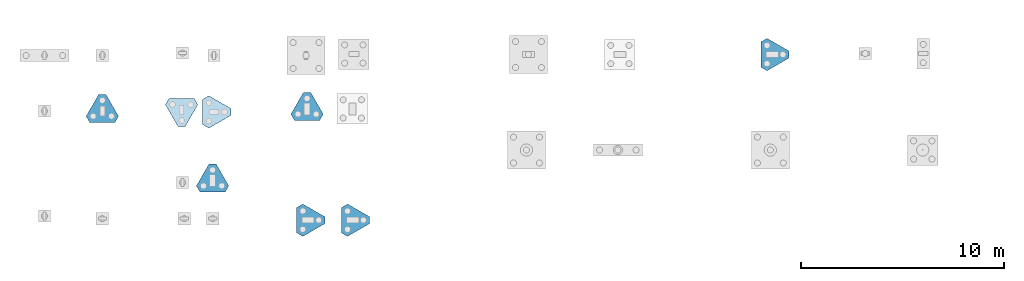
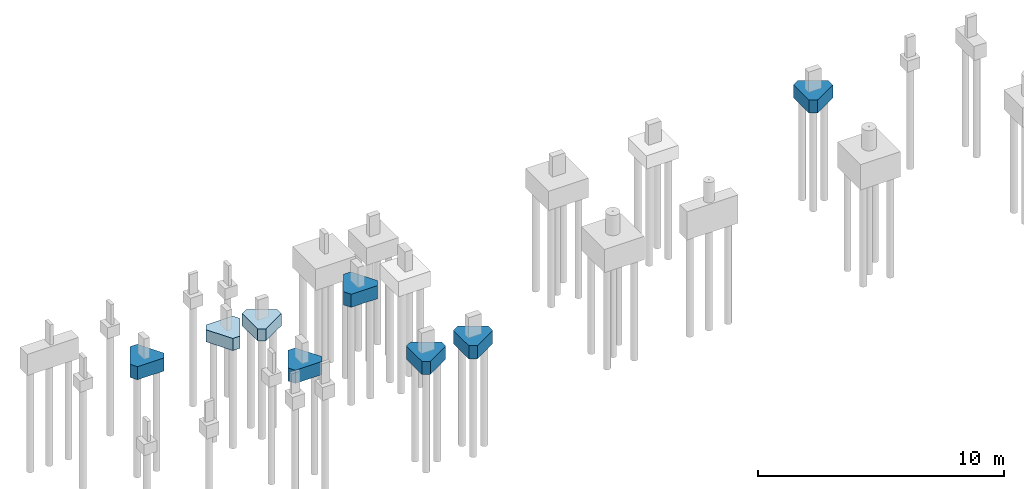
# One storey, part 3 of 3: 8 footings.
"""IFC2X3 building model written with IfcOpenShell, lengths in centimetres."""

from ifc_helpers import new_model, si_unit, derived_unit, frame, origin, origin_with_axes, place, context, project, spatial, faceted_brep, material, element, save


model = new_model("IFC2X3")

# Units and contexts
model_context = context("Model", 3, precision=1e-05, world=origin_with_axes(), identifier="Body")
ifc_project = project(units=[si_unit("LENGTHUNIT", "METRE", prefix="CENTI"), si_unit("VOLUMEUNIT", "CUBIC_METRE"), si_unit("AREAUNIT", "SQUARE_METRE"), si_unit("POWERUNIT", "WATT"), si_unit("LUMINOUSFLUXUNIT", "LUMEN"), si_unit("ELECTRICCURRENTUNIT", "AMPERE"), si_unit("PRESSUREUNIT", "PASCAL", prefix="KILO"), si_unit("MASSUNIT", "GRAM", prefix="KILO"), si_unit("PLANEANGLEUNIT", "RADIAN"), derived_unit("VOLUMETRICFLOWRATEUNIT", [(si_unit("LENGTHUNIT", "METRE"), 3), (si_unit("TIMEUNIT", "SECOND"), -1)])], contexts=[model_context])

# Site, building, storey
site_placement = place(None, origin_with_axes())
site = spatial("IfcSite", under=ifc_project, at=site_placement)
building_placement = place(site_placement, origin())
building = spatial("IfcBuilding", under=site, at=building_placement)
storey_placement = place(building_placement, origin_with_axes())
storey = spatial("IfcBuildingStorey", under=building, at=storey_placement, Name="01. Estacionamento", CompositionType="ELEMENT", Elevation=0.0)

# Footings
ifc_material = material(Name="Concreto")
footing_1_placement = place(storey_placement, frame((1861.5303810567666, -289.11, -100.0), z_axis=(0.0, 0.0, 1.0), x_axis=(1.0, 0.0, 0.0)))
element("IfcFooting", 1, at=footing_1_placement, inside=storey, material=ifc_material, Name="P10", context=model_context, shape_type="SolidModel", body=[
    faceted_brep([(68.97114317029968, -17.320508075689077, -65.0), (-38.97114317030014, -79.64101615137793, -65.0), (-68.97114317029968, -62.320508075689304, -65.0), (-68.97114317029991, 62.320508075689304, -65.0), (-38.97114317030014, 79.64101615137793, -65.0), (68.97114317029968, 17.32050807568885, -65.0), (68.97114317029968, 17.32050807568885, 0.0), (-38.97114317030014, 79.64101615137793, 0.0), (-68.97114317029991, 62.320508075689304, 0.0), (-68.97114317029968, -62.320508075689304, 0.0), (-38.97114317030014, -79.64101615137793, 0.0), (68.97114317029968, -17.320508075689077, 0.0)], [[[0, 1, 2, 3, 4, 5]], [[6, 7, 8, 9, 10, 11]], [[6, 5, 7]], [[5, 4, 7]], [[7, 4, 8]], [[4, 3, 8]], [[8, 3, 9]], [[3, 2, 9]], [[9, 2, 10]], [[2, 1, 10]], [[10, 1, 11]], [[1, 0, 11]], [[11, 0, 6]], [[0, 5, 6]]]),
])
footing_2_placement = place(storey_placement, frame((-1447.96, -553.6196189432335, -100.0), z_axis=(0.0, 0.0, 1.0), x_axis=(1.0, 0.0, 0.0)))
element("IfcFooting", 2, at=footing_2_placement, inside=storey, material=ifc_material, Name="P17", context=model_context, shape_type="SolidModel", body=[
    faceted_brep([(17.320508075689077, 68.9711431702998, -65.0), (79.64101615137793, -38.971143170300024, -65.0), (62.320508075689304, -68.97114317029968, -65.0), (-62.320508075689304, -68.97114317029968, -65.0), (-79.64101615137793, -38.971143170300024, -65.0), (-17.32050807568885, 68.9711431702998, -65.0), (-17.32050807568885, 68.9711431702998, 0.0), (-79.64101615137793, -38.971143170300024, 0.0), (-62.320508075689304, -68.97114317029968, 0.0), (62.320508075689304, -68.97114317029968, 0.0), (79.64101615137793, -38.971143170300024, 0.0), (17.320508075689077, 68.9711431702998, 0.0)], [[[0, 1, 2, 3, 4, 5]], [[6, 7, 8, 9, 10, 11]], [[6, 5, 7]], [[5, 4, 7]], [[7, 4, 8]], [[4, 3, 8]], [[8, 3, 9]], [[3, 2, 9]], [[9, 2, 10]], [[2, 1, 10]], [[10, 1, 11]], [[1, 0, 11]], [[11, 0, 6]], [[0, 5, 6]]]),
])
footing_3_placement = place(storey_placement, frame((-1057.96, -574.6003810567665, -100.0), z_axis=(0.0, 0.0, 1.0), x_axis=(1.0, 0.0, 0.0)))
element("IfcFooting", 3, at=footing_3_placement, inside=storey, material=ifc_material, Name="P18", context=model_context, shape_type="SolidModel", body=[
    faceted_brep([(-17.320508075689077, -68.9711431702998, -60.0), (-79.64101615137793, 38.971143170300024, -60.0), (-62.32050807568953, 68.97114317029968, -60.0), (62.320508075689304, 68.97114317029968, -60.0), (79.64101615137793, 38.971143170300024, -60.0), (17.32050807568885, -68.9711431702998, -60.0), (17.32050807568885, -68.9711431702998, 0.0), (79.64101615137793, 38.971143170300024, 0.0), (62.320508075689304, 68.97114317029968, 0.0), (-62.32050807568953, 68.97114317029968, 0.0), (-79.64101615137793, 38.971143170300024, 0.0), (-17.320508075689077, -68.9711431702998, 0.0)], [[[0, 1, 2, 3, 4, 5]], [[6, 7, 8, 9, 10, 11]], [[6, 5, 7]], [[5, 4, 7]], [[7, 4, 8]], [[4, 3, 8]], [[8, 3, 9]], [[3, 2, 9]], [[9, 2, 10]], [[2, 1, 10]], [[10, 1, 11]], [[1, 0, 11]], [[11, 0, 6]], [[0, 5, 6]]]),
])
footing_4_placement = place(storey_placement, frame((-884.9696189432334, -571.61, -100.0), z_axis=(0.0, 0.0, 1.0), x_axis=(1.0, 0.0, 0.0)))
element("IfcFooting", 4, at=footing_4_placement, inside=storey, material=ifc_material, Name="P19", context=model_context, shape_type="SolidModel", body=[
    faceted_brep([(68.97114317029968, -17.320508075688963, -60.0), (-38.97114317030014, -79.64101615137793, -60.0), (-68.9711431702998, -62.32050807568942, -60.0), (-68.9711431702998, 62.32050807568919, -60.0), (-38.97114317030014, 79.64101615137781, -60.0), (68.97114317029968, 17.32050807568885, -60.0), (68.97114317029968, 17.32050807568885, 0.0), (-38.97114317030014, 79.64101615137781, 0.0), (-68.9711431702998, 62.32050807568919, 0.0), (-68.9711431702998, -62.32050807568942, 0.0), (-38.97114317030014, -79.64101615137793, 0.0), (68.97114317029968, -17.320508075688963, 0.0)], [[[0, 1, 2, 3, 4, 5]], [[6, 7, 8, 9, 10, 11]], [[6, 5, 7]], [[5, 4, 7]], [[7, 4, 8]], [[4, 3, 8]], [[8, 3, 9]], [[3, 2, 9]], [[9, 2, 10]], [[2, 1, 10]], [[10, 1, 11]], [[1, 0, 11]], [[11, 0, 6]], [[0, 5, 6]]]),
])
footing_5_placement = place(storey_placement, frame((-440.46, -543.6196189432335, -100.0), z_axis=(0.0, 0.0, 1.0), x_axis=(1.0, 0.0, 0.0)))
element("IfcFooting", 5, at=footing_5_placement, inside=storey, material=ifc_material, Name="P20", context=model_context, shape_type="SolidModel", body=[
    faceted_brep([(17.320508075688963, 68.9711431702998, -65.0), (79.64101615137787, -38.971143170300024, -65.0), (62.32050807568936, -68.97114317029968, -65.0), (-62.320508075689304, -68.97114317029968, -65.0), (-79.64101615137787, -38.971143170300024, -65.0), (-17.320508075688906, 68.9711431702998, -65.0), (-17.320508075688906, 68.9711431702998, 0.0), (-79.64101615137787, -38.971143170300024, 0.0), (-62.320508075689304, -68.97114317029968, 0.0), (62.32050807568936, -68.97114317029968, 0.0), (79.64101615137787, -38.971143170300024, 0.0), (17.320508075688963, 68.9711431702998, 0.0)], [[[0, 1, 2, 3, 4, 5]], [[6, 7, 8, 9, 10, 11]], [[6, 5, 7]], [[5, 4, 7]], [[7, 4, 8]], [[4, 3, 8]], [[8, 3, 9]], [[3, 2, 9]], [[9, 2, 10]], [[2, 1, 10]], [[10, 1, 11]], [[1, 0, 11]], [[11, 0, 6]], [[0, 5, 6]]]),
])
footing_6_placement = place(storey_placement, frame((-905.46, -896.1196189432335, -100.0), z_axis=(0.0, 0.0, 1.0), x_axis=(1.0, 0.0, 0.0)))
element("IfcFooting", 6, at=footing_6_placement, inside=storey, material=ifc_material, Name="P34", context=model_context, shape_type="SolidModel", body=[
    faceted_brep([(17.32050807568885, 68.9711431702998, -65.0), (79.64101615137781, -38.971143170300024, -65.0), (62.320508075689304, -68.97114317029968, -65.0), (-62.320508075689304, -68.97114317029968, -65.0), (-79.64101615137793, -38.971143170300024, -65.0), (-17.320508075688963, 68.9711431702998, -65.0), (-17.320508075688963, 68.9711431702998, 0.0), (-79.64101615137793, -38.971143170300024, 0.0), (-62.320508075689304, -68.97114317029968, 0.0), (62.320508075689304, -68.97114317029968, 0.0), (79.64101615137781, -38.971143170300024, 0.0), (17.32050807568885, 68.9711431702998, 0.0)], [[[0, 1, 2, 3, 4, 5]], [[6, 7, 8, 9, 10, 11]], [[6, 5, 7]], [[5, 4, 7]], [[7, 4, 8]], [[4, 3, 8]], [[8, 3, 9]], [[3, 2, 9]], [[9, 2, 10]], [[2, 1, 10]], [[10, 1, 11]], [[1, 0, 11]], [[11, 0, 6]], [[0, 5, 6]]]),
])
footing_7_placement = place(storey_placement, frame((-422.46961894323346, -1104.1, -100.0), z_axis=(0.0, 0.0, 1.0), x_axis=(1.0, 0.0, 0.0)))
element("IfcFooting", 7, at=footing_7_placement, inside=storey, material=ifc_material, Name="P39", context=model_context, shape_type="SolidModel", body=[
    faceted_brep([(68.9711431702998, -17.32050807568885, -65.0), (-38.971143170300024, -79.64101615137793, -65.0), (-68.9711431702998, -62.320508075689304, -65.0), (-68.9711431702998, 62.320508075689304, -65.0), (-38.971143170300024, 79.64101615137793, -65.0), (68.9711431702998, 17.32050807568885, -65.0), (68.9711431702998, 17.32050807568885, 0.0), (-38.971143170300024, 79.64101615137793, 0.0), (-68.9711431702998, 62.320508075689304, 0.0), (-68.9711431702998, -62.320508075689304, 0.0), (-38.971143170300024, -79.64101615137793, 0.0), (68.9711431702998, -17.32050807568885, 0.0)], [[[0, 1, 2, 3, 4, 5]], [[6, 7, 8, 9, 10, 11]], [[6, 5, 7]], [[5, 4, 7]], [[7, 4, 8]], [[4, 3, 8]], [[8, 3, 9]], [[3, 2, 9]], [[9, 2, 10]], [[2, 1, 10]], [[10, 1, 11]], [[1, 0, 11]], [[11, 0, 6]], [[0, 5, 6]]]),
])
footing_8_placement = place(storey_placement, frame((-202.4696189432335, -1104.1, -100.0), z_axis=(0.0, 0.0, 1.0), x_axis=(1.0, 0.0, 0.0)))
element("IfcFooting", 8, at=footing_8_placement, inside=storey, material=ifc_material, Name="P40", context=model_context, shape_type="SolidModel", body=[
    faceted_brep([(68.97114317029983, -17.32050807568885, -65.0), (-38.971143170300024, -79.64101615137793, -65.0), (-68.97114317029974, -62.320508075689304, -65.0), (-68.9711431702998, 62.320508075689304, -65.0), (-38.971143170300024, 79.64101615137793, -65.0), (68.97114317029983, 17.32050807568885, -65.0), (68.97114317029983, 17.32050807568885, 0.0), (-38.971143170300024, 79.64101615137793, 0.0), (-68.9711431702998, 62.320508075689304, 0.0), (-68.97114317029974, -62.320508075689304, 0.0), (-38.971143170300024, -79.64101615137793, 0.0), (68.97114317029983, -17.32050807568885, 0.0)], [[[0, 1, 2, 3, 4, 5]], [[6, 7, 8, 9, 10, 11]], [[6, 5, 7]], [[5, 4, 7]], [[7, 4, 8]], [[4, 3, 8]], [[8, 3, 9]], [[3, 2, 9]], [[9, 2, 10]], [[2, 1, 10]], [[10, 1, 11]], [[1, 0, 11]], [[11, 0, 6]], [[0, 5, 6]]]),
])

save(model, "model.ifc")
